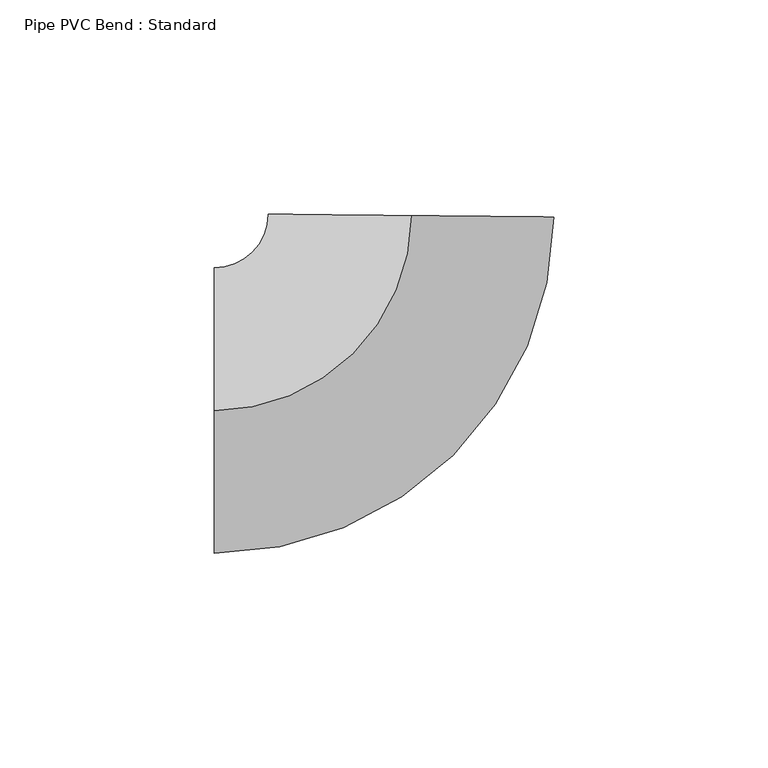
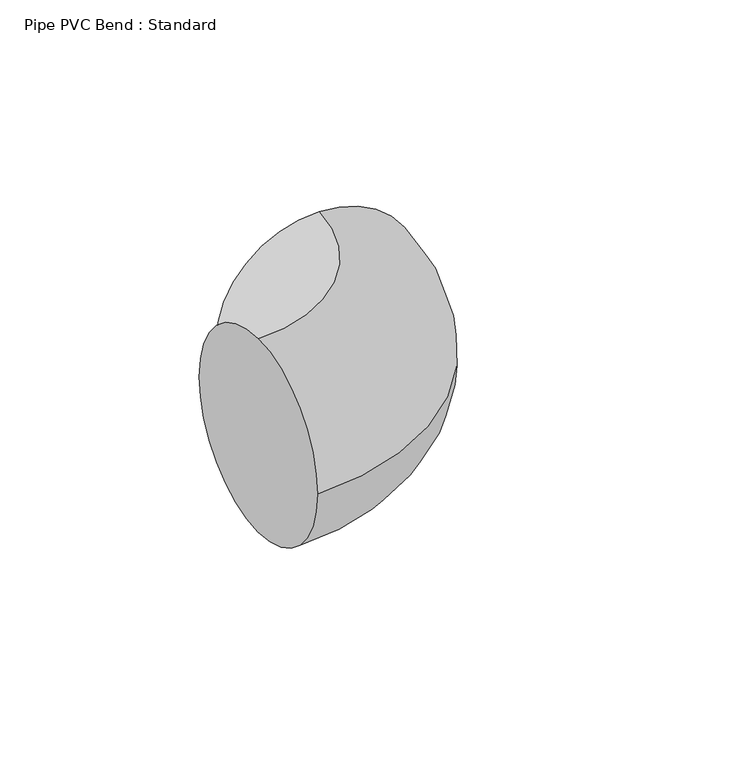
"""IFC4 building model written with IfcOpenShell, lengths in millimetres: pipe fitting geometry, Pipe PVC Bend : Standard."""

from ifc_helpers import new_model, si_unit, point, frame, origin, place, context, project, spatial, circle_curve, ellipse_curve, trimmed, source, transform, mapped, element, save
from ifc_brep_helpers import plane_surface, revolved_surface, advanced_brep


def pipe_pvc_bend_standard_56296a14(model_context):
    return source(origin(), model_context, "Body", "AdvancedBrep", [
        advanced_brep(
        [(-45.5604403, 0.0, 33.3375), (-45.5604403, 33.3375, 0.0), (-45.5604403, 0.0, -33.3375), (-45.5604403, -33.3375, 0.0), (0.4745622, 45.5579687, 33.3375), (33.8102536, 45.2107219, 0.0), (0.4745622, 45.5579687, -33.3375), (-32.8611293, 45.9052155, 0.0)],
        [
            (0, 1, circle_curve(frame((-45.5604403, 0.0, 0.0), z_axis=(-1.0, 0.0, 0.0), x_axis=(0.0, 1.0, 0.0)), 33.3375)),
            (1, 2, circle_curve(frame((-45.5604403, 0.0, 0.0), z_axis=(-1.0, 0.0, 0.0), x_axis=(0.0, 1.0, 0.0)), 33.3375)),
            (2, 3, circle_curve(frame((-45.5604403, 0.0, 0.0), z_axis=(-1.0, 0.0, 0.0), x_axis=(0.0, 1.0, 0.0)), 33.3375)),
            (3, 0, circle_curve(frame((-45.5604403, 0.0, 0.0), z_axis=(-1.0, 0.0, 0.0), x_axis=(0.0, 1.0, 0.0)), 33.3375)),
            (4, 5, circle_curve(frame((0.4745622, 45.5579687, 0.0), z_axis=(0.010416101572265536, 0.999945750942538, 0.0), x_axis=(-0.999945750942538, 0.010416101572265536, 0.0)), 33.3375)),
            (5, 6, circle_curve(frame((0.4745622, 45.5579687, 0.0), z_axis=(0.010416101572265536, 0.999945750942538, 0.0), x_axis=(-0.999945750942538, 0.010416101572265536, 0.0)), 33.3375)),
            (6, 7, circle_curve(frame((0.4745622, 45.5579687, 0.0), z_axis=(0.010416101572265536, 0.999945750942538, 0.0), x_axis=(-0.999945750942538, 0.010416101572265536, 0.0)), 33.3375)),
            (7, 4, circle_curve(frame((0.4745622, 45.5579687, 0.0), z_axis=(0.010416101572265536, 0.999945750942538, 0.0), x_axis=(-0.999945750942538, 0.010416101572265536, 0.0)), 33.3375)),
            (7, 1, circle_curve(frame((-45.5604403, 46.0375, 0.0), z_axis=(0.0, 0.0, -1.0), x_axis=(0.0, -1.0, 0.0)), 12.7)),
            (0, 4, circle_curve(frame((-45.5604403, 46.0375, 33.3375), z_axis=(0.0, 0.0, 1.0), x_axis=(0.0, -1.0, 0.0)), 46.0375)),
            (6, 2, circle_curve(frame((-45.5604403, 46.0375, -33.3375), z_axis=(0.0, 0.0, -1.0), x_axis=(0.0, -1.0, 0.0)), 46.0375)),
            (5, 3, circle_curve(frame((-45.5604403, 46.0375, 0.0), z_axis=(0.0, 0.0, -1.0), x_axis=(0.0, -1.0, 0.0)), 79.375)),
        ],
        [
            plane_surface(frame((-45.5604403, 0.0, 0.0), z_axis=(-1.0, 0.0, 0.0), x_axis=(0.0, 0.0, 1.0))),
            plane_surface(frame((0.4745622, 45.5579687, 0.0), z_axis=(0.010416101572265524, 0.9999457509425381, 0.0), x_axis=(0.0, 0.0, 1.0))),
            revolved_surface(trimmed(ellipse_curve(frame((-45.5604403, 0.0, 0.0), z_axis=(-1.0, 0.0, 0.0), x_axis=(0.0, 1.0, 0.0)), 33.3375, 33.3375), [point((-45.5604403, 0.0, 33.3375))], [point((-45.5604403, 33.3375, 0.0))], True, "CARTESIAN"), (-45.5604403, 46.0375, 0.0), (0.0, 0.0, 1.0)),
            revolved_surface(trimmed(ellipse_curve(frame((-45.5604403, 0.0, 0.0), z_axis=(-1.0, 0.0, 0.0), x_axis=(0.0, 1.0, 0.0)), 33.3375, 33.3375), [point((-45.5604403, 33.3375, 0.0))], [point((-45.5604403, 0.0, -33.3375))], True, "CARTESIAN"), (-45.5604403, 46.0375, 0.0), (0.0, 0.0, 1.0)),
            revolved_surface(trimmed(ellipse_curve(frame((-45.5604403, 0.0, 0.0), z_axis=(-1.0, 0.0, 0.0), x_axis=(0.0, 1.0, 0.0)), 33.3375, 33.3375), [point((-45.5604403, 0.0, -33.3375))], [point((-45.5604403, -33.3375, 0.0))], True, "CARTESIAN"), (-45.5604403, 46.0375, 0.0), (0.0, 0.0, 1.0)),
            revolved_surface(trimmed(ellipse_curve(frame((-45.5604403, 0.0, 0.0), z_axis=(-1.0, 0.0, 0.0), x_axis=(0.0, 1.0, 0.0)), 33.3375, 33.3375), [point((-45.5604403, -33.3375, 0.0))], [point((-45.5604403, 0.0, 33.3375))], True, "CARTESIAN"), (-45.5604403, 46.0375, 0.0), (0.0, 0.0, 1.0)),
        ],
        [
            (0, [[1, 2, 3, 4]]),
            (1, [[5, 6, 7, 8]]),
            (2, [[9, -1, 10, -8]]),
            (3, [[11, -2, -9, -7]]),
            (4, [[12, -3, -11, -6]]),
            (5, [[-10, -4, -12, -5]]),
        ],
    ),
        advanced_brep(
        [(-45.5604403, 0.0, 33.3375), (-45.5604403, 33.3375, 0.0), (-45.5604403, 0.0, -33.3375), (-45.5604403, -33.3375, 0.0), (0.4745622, 45.5579687, 33.3375), (33.8102536, 45.2107219, 0.0), (0.4745622, 45.5579687, -33.3375), (-32.8611293, 45.9052155, 0.0)],
        [
            (0, 1, circle_curve(frame((-45.5604403, 0.0, 0.0), z_axis=(-1.0, 0.0, 0.0), x_axis=(0.0, 1.0, 0.0)), 33.3375)),
            (1, 2, circle_curve(frame((-45.5604403, 0.0, 0.0), z_axis=(-1.0, 0.0, 0.0), x_axis=(0.0, 1.0, 0.0)), 33.3375)),
            (2, 3, circle_curve(frame((-45.5604403, 0.0, 0.0), z_axis=(-1.0, 0.0, 0.0), x_axis=(0.0, 1.0, 0.0)), 33.3375)),
            (3, 0, circle_curve(frame((-45.5604403, 0.0, 0.0), z_axis=(-1.0, 0.0, 0.0), x_axis=(0.0, 1.0, 0.0)), 33.3375)),
            (4, 5, circle_curve(frame((0.4745622, 45.5579687, 0.0), z_axis=(0.010416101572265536, 0.999945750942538, 0.0), x_axis=(-0.999945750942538, 0.010416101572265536, 0.0)), 33.3375)),
            (5, 6, circle_curve(frame((0.4745622, 45.5579687, 0.0), z_axis=(0.010416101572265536, 0.999945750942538, 0.0), x_axis=(-0.999945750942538, 0.010416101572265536, 0.0)), 33.3375)),
            (6, 7, circle_curve(frame((0.4745622, 45.5579687, 0.0), z_axis=(0.010416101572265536, 0.999945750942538, 0.0), x_axis=(-0.999945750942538, 0.010416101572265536, 0.0)), 33.3375)),
            (7, 4, circle_curve(frame((0.4745622, 45.5579687, 0.0), z_axis=(0.010416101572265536, 0.999945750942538, 0.0), x_axis=(-0.999945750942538, 0.010416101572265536, 0.0)), 33.3375)),
            (7, 1, circle_curve(frame((-45.5604403, 46.0375, 0.0), z_axis=(0.0, 0.0, -1.0), x_axis=(0.0, -1.0, 0.0)), 12.7)),
            (0, 4, circle_curve(frame((-45.5604403, 46.0375, 33.3375), z_axis=(0.0, 0.0, 1.0), x_axis=(0.0, -1.0, 0.0)), 46.0375)),
            (6, 2, circle_curve(frame((-45.5604403, 46.0375, -33.3375), z_axis=(0.0, 0.0, -1.0), x_axis=(0.0, -1.0, 0.0)), 46.0375)),
            (5, 3, circle_curve(frame((-45.5604403, 46.0375, 0.0), z_axis=(0.0, 0.0, -1.0), x_axis=(0.0, -1.0, 0.0)), 79.375)),
        ],
        [
            plane_surface(frame((-45.5604403, 0.0, 0.0), z_axis=(-1.0, 0.0, 0.0), x_axis=(0.0, 0.0, 1.0))),
            plane_surface(frame((0.4745622, 45.5579687, 0.0), z_axis=(0.010416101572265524, 0.9999457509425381, 0.0), x_axis=(0.0, 0.0, 1.0))),
            revolved_surface(trimmed(ellipse_curve(frame((-45.5604403, 0.0, 0.0), z_axis=(-1.0, 0.0, 0.0), x_axis=(0.0, 1.0, 0.0)), 33.3375, 33.3375), [point((-45.5604403, 0.0, 33.3375))], [point((-45.5604403, 33.3375, 0.0))], True, "CARTESIAN"), (-45.5604403, 46.0375, 0.0), (0.0, 0.0, 1.0)),
            revolved_surface(trimmed(ellipse_curve(frame((-45.5604403, 0.0, 0.0), z_axis=(-1.0, 0.0, 0.0), x_axis=(0.0, 1.0, 0.0)), 33.3375, 33.3375), [point((-45.5604403, 33.3375, 0.0))], [point((-45.5604403, 0.0, -33.3375))], True, "CARTESIAN"), (-45.5604403, 46.0375, 0.0), (0.0, 0.0, 1.0)),
            revolved_surface(trimmed(ellipse_curve(frame((-45.5604403, 0.0, 0.0), z_axis=(-1.0, 0.0, 0.0), x_axis=(0.0, 1.0, 0.0)), 33.3375, 33.3375), [point((-45.5604403, 0.0, -33.3375))], [point((-45.5604403, -33.3375, 0.0))], True, "CARTESIAN"), (-45.5604403, 46.0375, 0.0), (0.0, 0.0, 1.0)),
            revolved_surface(trimmed(ellipse_curve(frame((-45.5604403, 0.0, 0.0), z_axis=(-1.0, 0.0, 0.0), x_axis=(0.0, 1.0, 0.0)), 33.3375, 33.3375), [point((-45.5604403, -33.3375, 0.0))], [point((-45.5604403, 0.0, 33.3375))], True, "CARTESIAN"), (-45.5604403, 46.0375, 0.0), (0.0, 0.0, 1.0)),
        ],
        [
            (0, [[1, 2, 3, 4]]),
            (1, [[5, 6, 7, 8]]),
            (2, [[9, -1, 10, -8]]),
            (3, [[11, -2, -9, -7]]),
            (4, [[12, -3, -11, -6]]),
            (5, [[-10, -4, -12, -5]]),
        ],
    ),
    ])


if __name__ == "__main__":
    model = new_model("IFC4")
    model_context = context("Model", 3, world=origin())
    ifc_project = project(units=[si_unit("LENGTHUNIT", "METRE", prefix="MILLI")], contexts=[model_context])
    site = spatial("IfcSite", under=ifc_project)
    building = spatial("IfcBuilding", under=site)
    placement = place(None, origin())
    pipe_pvc_bend_standard_shape = pipe_pvc_bend_standard_56296a14(model_context)
    element("IfcPipeFitting", 1, ObjectType="Pipe PVC Bend : Standard", at=placement, inside=building, context=model_context, shape_type="MappedRepresentation", body=[
        mapped(pipe_pvc_bend_standard_shape, transform((0.0, 0.0, 0.0), x_axis=(1.0, 0.0, 0.0), y_axis=(0.0, 1.0, 0.0), z_axis=(0.0, 0.0, 1.0))),
    ])
    save(model, "model.ifc")
